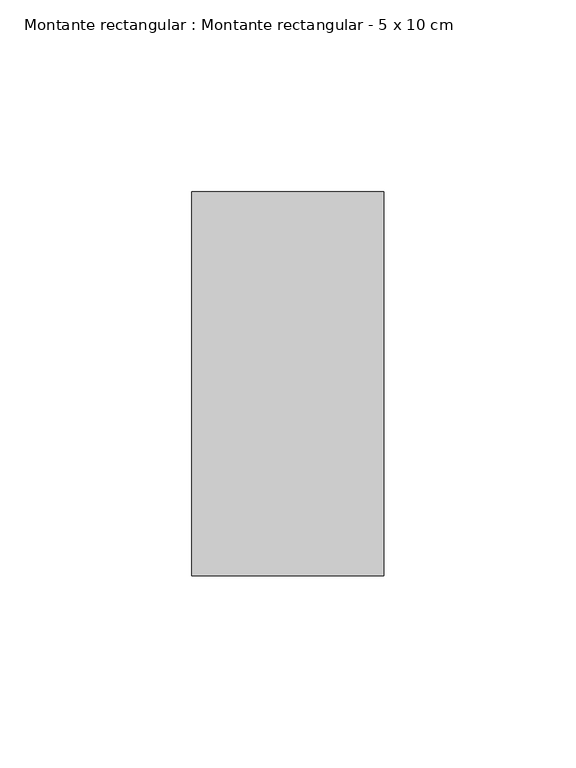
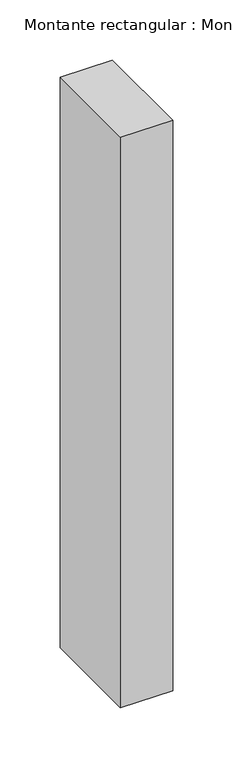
"""IFC4 building model written with IfcOpenShell, lengths in millimetres: member geometry, Montante rectangular : Montante rectangular - 5 x 10 cm."""

from ifc_helpers import new_model, si_unit, frame, origin, place, context, project, spatial, polyline, outline, extrude, source, transform, mapped, element, save


def montante_rectangular_montante_rectangular_5_x_10_cm_730db540(model_context):
    return source(origin(), model_context, "Body", "SweptSolid", [
        extrude(outline(polyline([(25.0, -50.0), (-25.0, -50.0), (-25.0, 50.0), (25.0, 50.0), (25.0, -50.0)])), frame((0.0, 0.0, -578.2098765), z_axis=(0.0, 0.0, 1.0), x_axis=(1.0, 0.0, 0.0)), (0.0, 0.0, 1.0), 578.2098765),
    ])


if __name__ == "__main__":
    model = new_model("IFC4")
    model_context = context("Model", 3, world=origin())
    ifc_project = project(units=[si_unit("LENGTHUNIT", "METRE", prefix="MILLI")], contexts=[model_context])
    site = spatial("IfcSite", under=ifc_project)
    building = spatial("IfcBuilding", under=site)
    placement = place(None, origin())
    montante_rectangular_montante_rectangular_5_x_10_cm_shape = montante_rectangular_montante_rectangular_5_x_10_cm_730db540(model_context)
    element("IfcMember", 1, ObjectType="Montante rectangular : Montante rectangular - 5 x 10 cm", at=placement, inside=building, context=model_context, shape_type="MappedRepresentation", body=[
        mapped(montante_rectangular_montante_rectangular_5_x_10_cm_shape, transform((0.0, 0.0, 0.0), x_axis=(1.0, 0.0, 0.0), y_axis=(0.0, 1.0, 0.0), z_axis=(0.0, 0.0, 1.0))),
    ])
    save(model, "model.ifc")
